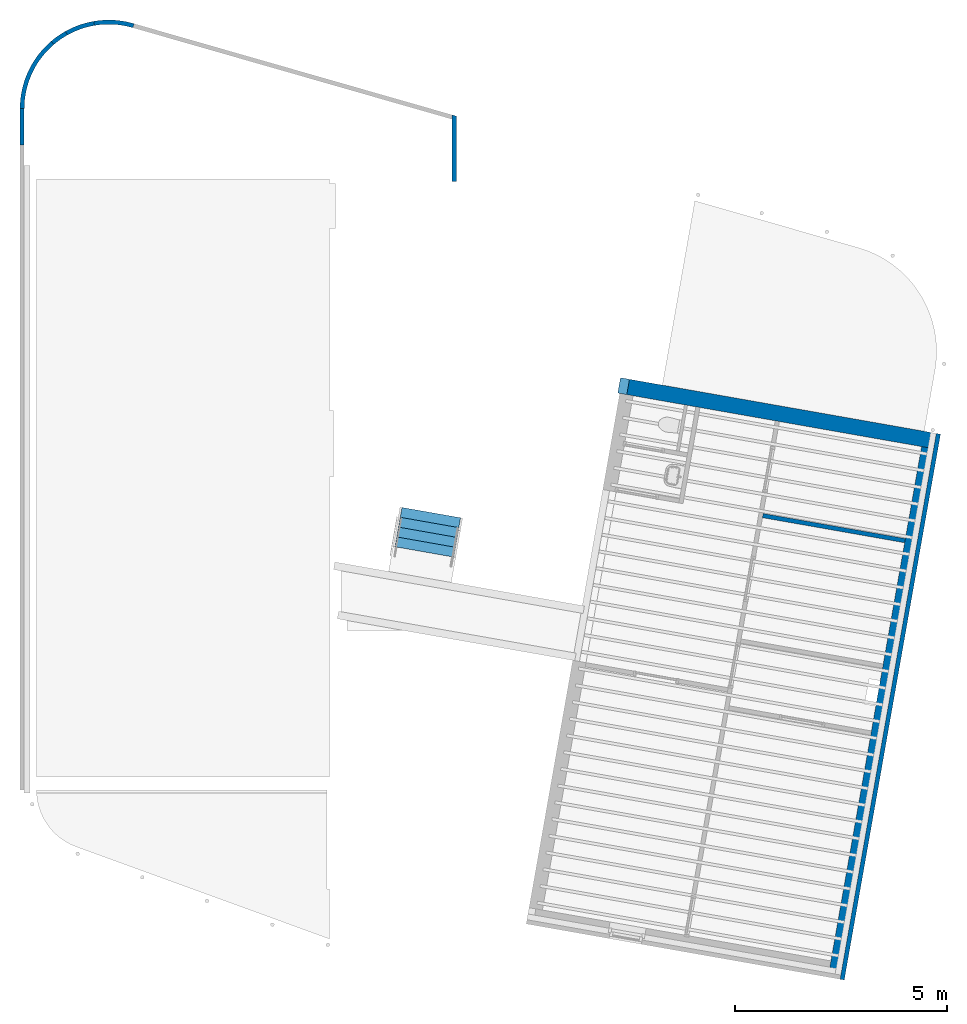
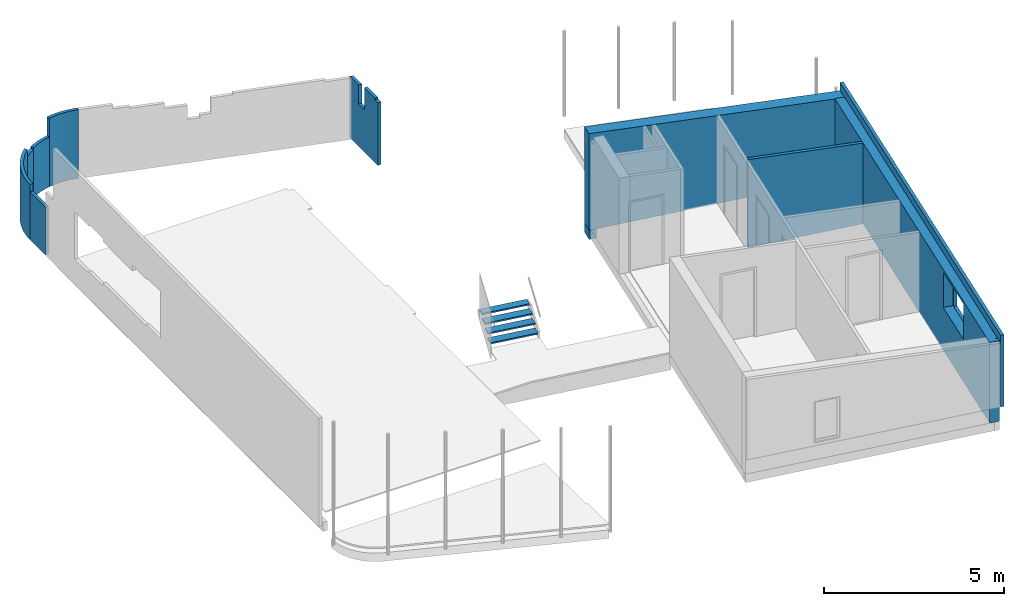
# One storey, part 4 of 7: 11 walls, 1 stair flight, 6 openings, 1 element without a shape of its own.
"""IFC2X3 building model written with IfcOpenShell, lengths in millimetres."""

from ifc_helpers import new_model, entity, si_unit, converted_unit, derived_unit, direction, frame, frame_2d, origin, origin_2d_with_axis, place, context, subcontext, project, spatial, polyline, circle_curve, parameter, trimmed, segment, composite_curve, rectangle, outline, extrude, clip, halfspace, bounded_halfspace, faceted_brep, material, layer, layer_set, layer_usage, type_object, element, aggregate, save


model = new_model("IFC2X3")

# Units and contexts
model_context = context("Model", 3, precision=0.01, world=origin(), true_north=direction((6.12303176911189e-17, 1.0)))
body_context = subcontext(model_context, "Body", "Model", "MODEL_VIEW")
ifc_project = project(units=[si_unit("LENGTHUNIT", "METRE", prefix="MILLI"), si_unit("AREAUNIT", "SQUARE_METRE"), si_unit("VOLUMEUNIT", "CUBIC_METRE"), converted_unit("PLANEANGLEUNIT", "DEGREE", entity("IfcRatioMeasure", 0.0174532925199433), si_unit("PLANEANGLEUNIT", "RADIAN"), dimensions=[0, 0, 0, 0, 0, 0, 0]), si_unit("MASSUNIT", "GRAM", prefix="KILO"), derived_unit("MASSDENSITYUNIT", [(si_unit("MASSUNIT", "GRAM", prefix="KILO"), 1), (si_unit("LENGTHUNIT", "METRE"), -3)]), si_unit("TIMEUNIT", "SECOND"), si_unit("FREQUENCYUNIT", "HERTZ"), si_unit("THERMODYNAMICTEMPERATUREUNIT", "DEGREE_CELSIUS"), derived_unit("THERMALTRANSMITTANCEUNIT", [(si_unit("MASSUNIT", "GRAM", prefix="KILO"), 1), (si_unit("THERMODYNAMICTEMPERATUREUNIT", "KELVIN"), -1), (si_unit("TIMEUNIT", "SECOND"), -3)]), derived_unit("VOLUMETRICFLOWRATEUNIT", [(si_unit("LENGTHUNIT", "METRE"), 3), (si_unit("TIMEUNIT", "SECOND"), -1)]), si_unit("ELECTRICCURRENTUNIT", "AMPERE"), si_unit("ELECTRICVOLTAGEUNIT", "VOLT"), si_unit("POWERUNIT", "WATT"), si_unit("FORCEUNIT", "NEWTON", prefix="KILO"), si_unit("ILLUMINANCEUNIT", "LUX"), si_unit("LUMINOUSFLUXUNIT", "LUMEN"), si_unit("LUMINOUSINTENSITYUNIT", "CANDELA"), derived_unit("USERDEFINED", [(si_unit("MASSUNIT", "GRAM", prefix="KILO"), -1), (si_unit("LENGTHUNIT", "METRE"), -2), (si_unit("TIMEUNIT", "SECOND"), 3), (si_unit("LUMINOUSFLUXUNIT", "LUMEN"), 1)]), derived_unit("LINEARVELOCITYUNIT", [(si_unit("LENGTHUNIT", "METRE"), 1), (si_unit("TIMEUNIT", "SECOND"), -1)]), si_unit("PRESSUREUNIT", "PASCAL"), derived_unit("USERDEFINED", [(si_unit("LENGTHUNIT", "METRE"), -2), (si_unit("MASSUNIT", "GRAM", prefix="KILO"), 1), (si_unit("TIMEUNIT", "SECOND"), -2)])], contexts=[model_context])

# Site, building, storey
site_placement = place(None, origin())
site = spatial("IfcSite", under=ifc_project, at=site_placement, Name="<Kadaster Gemeente>;<Kadaster nummer>;<Kadaster sectie>", CompositionType="ELEMENT")
building_placement = place(site_placement, origin())
building = spatial("IfcBuilding", under=site, at=building_placement, Name="JRCZ Middelburg", CompositionType="ELEMENT")
storey_placement = place(building_placement, frame((0.0, 0.0, 3000.0)))
storey = spatial("IfcBuildingStorey", under=building, at=storey_placement, Name="01 eerste verdieping", CompositionType="ELEMENT", Elevation=3000.0)

# Wall
ifc_material_1 = material(Name="RBM_a_metalstudwand")
ifc_layer_1 = layer(ifc_material_1, 100.0)
ifc_layer_set_1 = layer_set([ifc_layer_1], Name="Basic Wall:WA_22_metalstud_binnenwand_100mm")
ifc_layer_usage_1 = layer_usage(ifc_layer_set_1, "AXIS2", "NEGATIVE", 50.0)
wall_type_1 = type_object("IfcWallType", Name="Basic Wall:WA_22_metalstud_binnenwand_100mm", PredefinedType="STANDARD", material=ifc_layer_set_1)
wall_1_placement = place(storey_placement, frame((30605.5416412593, 15721.1025888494, -45.0), z_axis=(0.0, 0.0, 1.0), x_axis=(-0.984807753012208, 0.173648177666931, 0.0)))
element("IfcWallStandardCase", 1, at=wall_1_placement, inside=storey, type_object=wall_type_1, material=ifc_layer_usage_1, Name="Basic Wall:WA_22_metalstud_binnenwand_100mm", ObjectType="Basic Wall:WA_22_metalstud_binnenwand_100mm", context=body_context, shape_type="Clipping", body=[
    clip(extrude(rectangle(XDim=3400.00000000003, YDim=99.9999999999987, at=frame_2d((1700.00000000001, 3.33955085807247e-13), x_axis=(-1.0, 0.0))), origin(), (0.0, 0.0, 1.0), 2990.3512620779), bounded_halfspace(frame((0.0, -50.0, 2735.3512620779), z_axis=(0.0747899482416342, 0.0, -0.997199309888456), x_axis=(0.997199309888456, 0.0, 0.0747899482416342)), True, frame((0.0, -50.0, 2735.3512620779)), polyline([(0.0, 0.0), (3400.0, 0.0), (3400.0, 100.0), (0.0, 100.0), (0.0, 0.0)]))),
])

# Wall, openings
ifc_material_2 = material(Name="isolatie_steenwol_hsb_270")
ifc_layer_2 = layer(ifc_material_2, 270.0)
ifc_material_3 = material(Name="RBM_i4_multiplex_beplating")
ifc_layer_3 = layer(ifc_material_3, 18.0)
ifc_layer_set_2 = layer_set([ifc_layer_2, ifc_layer_3], Name="Basic Wall:RBM_21_WA_hsb_288mm")
ifc_layer_usage_2 = layer_usage(ifc_layer_set_2, "AXIS2", "NEGATIVE", 144.0)
wall_type_2 = type_object("IfcWallType", Name="Basic Wall:RBM_21_WA_hsb_288mm", PredefinedType="STANDARD", material=ifc_layer_set_2)
wall_2_placement = place(storey_placement, frame((31138.0623574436, 17911.9146955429, -45.0), z_axis=(0.0, 0.0, 1.0), x_axis=(-0.17364817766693, -0.984807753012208, 0.0)))
wall_2 = element("IfcWallStandardCase", 2, at=wall_2_placement, inside=storey, type_object=wall_type_2, material=ifc_layer_usage_2, Name="Basic Wall:RBM_21_WA_hsb_288mm", ObjectType="Basic Wall:RBM_21_WA_hsb_288mm", context=body_context, shape_type="Clipping", body=[
    clip(extrude(rectangle(XDim=12588.0, YDim=288.0, at=frame_2d((6294.0, 1.12265752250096e-12), x_axis=(-1.0, 0.0))), origin(), (0.0, 0.0, 1.0), 2735.3512620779), bounded_halfspace(frame((12450.0, -144.0, 2735.35126207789), z_axis=(0.0, -0.0747899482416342, -0.997199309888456), x_axis=(0.0, -0.997199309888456, 0.0747899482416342)), True, frame((12450.0, -144.0, 2735.35126207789)), polyline([(0.0, 0.0), (0.0, 4.68349437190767), (0.0, 288.0), (-12450.0, 288.0), (-12450.0, 0.0), (-10250.0, 0.0), (-10150.0, 0.0), (-7250.0, 0.0), (-7150.0, 0.0), (-5650.0, 0.0), (-5550.0, 0.0), (0.0, 0.0)]))),
])
opening_1_placement = place(wall_2_placement, origin())
element("IfcOpeningElement", 3, at=opening_1_placement, cuts=wall_2, Name="Basic Wall:RBM_21_WA_hsb_288mm", ObjectType="Opening", context=body_context, shape_type="SweptSolid", body=[
    extrude(rectangle(XDim=1200.0, YDim=862.999999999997, at=frame_2d((0.0, -9.09494701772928e-13), x_axis=(1.0, 0.0))), frame((9250.0, -296.400000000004, 2045.0), z_axis=(0.0, 1.0, 0.0), x_axis=(0.0, 0.0, 1.0)), (0.0, 0.0, 1.0), 592.800000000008),
])
opening_2_placement = place(wall_2_placement, origin())
element("IfcOpeningElement", 4, at=opening_2_placement, cuts=wall_2, Name="Basic Wall:RBM_21_WA_hsb_288mm", ObjectType="Opening", context=body_context, shape_type="SweptSolid", body=[
    extrude(rectangle(XDim=1200.0, YDim=774.999999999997, at=frame_2d((9.09494701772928e-13, 0.0), x_axis=(0.0, 1.0))), frame((9250.0, -296.400000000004, 2045.0), z_axis=(0.0, 1.0, 0.0), x_axis=(-1.0, 0.0, 0.0)), (0.0, 0.0, 1.0), 592.800000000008),
])
opening_3_placement = place(wall_2_placement, origin())
element("IfcOpeningElement", 5, at=opening_3_placement, cuts=wall_2, Name="Basic Wall:RBM_21_WA_hsb_288mm", ObjectType="Opening", context=body_context, shape_type="SweptSolid", body=[
    extrude(rectangle(XDim=1200.0, YDim=774.999999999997, at=frame_2d((-9.09494701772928e-13, 0.0), x_axis=(0.0, 1.0))), frame((10050.0, -296.399999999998, 2045.0), z_axis=(0.0, 1.0, 0.0), x_axis=(-1.0, 0.0, 0.0)), (0.0, 0.0, 1.0), 592.799999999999),
])
opening_4_placement = place(wall_2_placement, origin())
element("IfcOpeningElement", 6, at=opening_4_placement, cuts=wall_2, Name="Basic Wall:RBM_21_WA_hsb_288mm", ObjectType="Opening", context=body_context, shape_type="SweptSolid", body=[
    extrude(rectangle(XDim=1200.0, YDim=862.999999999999, at=origin_2d_with_axis()), frame((10050.0, -296.399999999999, 2045.0), z_axis=(0.0, 1.0, 0.0), x_axis=(0.0, 0.0, 1.0)), (0.0, 0.0, 1.0), 592.8),
])

# Wall
ifc_material_4 = material(Name="steenachtig_ntb_plaat_antraciet")
ifc_layer_4 = layer(ifc_material_4, 8.0)
ifc_material_5 = material(Name="hout_vuren_regel")
ifc_layer_5 = layer(ifc_material_5, 35.0)
ifc_layer_6 = layer(ifc_material_5, 35.0)
ifc_layer_7 = layer(ifc_material_2, 138.0)
ifc_layer_set_3 = layer_set([ifc_layer_4, ifc_layer_5, ifc_layer_6, ifc_layer_7], Name="Basic Wall:RBM_21_WA_dakrand/pas strook_rockpanel")
ifc_layer_usage_3 = layer_usage(ifc_layer_set_3, "AXIS2", "NEGATIVE", 108.0)
wall_type_3 = type_object("IfcWallType", Name="Basic Wall:RBM_21_WA_dakrand/pas strook_rockpanel", PredefinedType="STANDARD", material=ifc_layer_set_3)
wall_3_placement = place(storey_placement, frame((23946.9961449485, 19179.8936888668, -355.0), z_axis=(0.0, 0.0, 1.0), x_axis=(0.173648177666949, 0.984807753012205, 0.0)))
element("IfcWallStandardCase", 7, at=wall_3_placement, inside=storey, type_object=wall_type_3, material=ifc_layer_usage_3, Name="Basic Wall:RBM_21_WA_dakrand/pas strook_rockpanel", ObjectType="Basic Wall:RBM_21_WA_dakrand/pas strook_rockpanel", context=body_context, shape_type="Clipping", body=[
    clip(extrude(rectangle(XDim=365.999999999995, YDim=216.000000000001, at=frame_2d((182.999999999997, -4.61852778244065e-13), x_axis=(-1.0, 0.0))), origin(), (0.0, 0.0, 1.0), 310.0), bounded_halfspace(frame((0.0, -108.0, 310.0), z_axis=(0.0, 0.0, -1.0), x_axis=(1.0, 0.0, 0.0)), True, frame((0.0, -108.0, 310.0), z_axis=(0.0, 0.0, -1.0), x_axis=(1.0, 0.0, 0.0)), polyline([(0.0, 0.0), (0.0, -216.0), (366.0, -216.0), (366.0, 0.0), (150.0, 0.0), (0.0, 0.0)]))),
])

# Wall, opening
ifc_layer_8 = layer(ifc_material_4, 8.0)
ifc_material_6 = material(Name="ISR_Luchtspouw")
ifc_layer_9 = layer(ifc_material_6, 35.0)
ifc_layer_10 = layer(ifc_material_6, 35.0)
ifc_layer_11 = layer(ifc_material_2, 270.0)
ifc_layer_12 = layer(ifc_material_3, 18.0)
ifc_layer_set_4 = layer_set([ifc_layer_8, ifc_layer_9, ifc_layer_10, ifc_layer_11, ifc_layer_12], Name="Basic Wall:RBM_21_WA_hsb_ rockpanel_366mm")
ifc_layer_usage_4 = layer_usage(ifc_layer_set_4, "AXIS2", "NEGATIVE", 183.0)
wall_type_4 = type_object("IfcWallType", Name="Basic Wall:RBM_21_WA_hsb_ rockpanel_366mm", PredefinedType="STANDARD", material=ifc_layer_set_4)
wall_4_placement = place(storey_placement, frame((23872.4145241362, 19378.8675108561, -45.0), z_axis=(0.0, 0.0, 1.0), x_axis=(0.984807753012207, -0.173648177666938, 0.0)))
wall_4 = element("IfcWallStandardCase", 8, at=wall_4_placement, inside=storey, type_object=wall_type_4, material=ifc_layer_usage_4, Name="Basic Wall:RBM_21_WA_hsb_ rockpanel_366mm", ObjectType="Basic Wall:RBM_21_WA_hsb_ rockpanel_366mm", context=body_context, shape_type="Clipping", body=[
    clip(extrude(rectangle(XDim=7554.00000000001, YDim=366.0, at=frame_2d((3777.00000000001, 1.06581410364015e-12), x_axis=(-1.0, 0.0))), origin(), (0.0, 0.0, 1.0), 3281.16232696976), halfspace(frame((7554.0, 183.0, 2695.96881615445), z_axis=(0.0772366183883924, 0.0, 0.997012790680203), x_axis=(0.0, 1.0, 0.0)), False)),
])
opening_5_placement = place(storey_placement, frame((23872.4145241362, 19378.8675108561, -45.0), z_axis=(0.0, 0.0, 1.0), x_axis=(0.984807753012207, -0.173648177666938, 0.0)))
element("IfcOpeningElement", 9, at=opening_5_placement, cuts=wall_4, Name="Basic Wall:RBM_21_WA_hsb_ rockpanel_366mm:1", ObjectType="Opening", context=body_context, shape_type="SweptSolid", body=[
    extrude(rectangle(XDim=9.99999999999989, YDim=215.999999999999, at=frame_2d((3.19744231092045e-12, 0.0), x_axis=(0.0, 1.0))), frame((216.0, 75.0, 5.0), z_axis=(1.0, 0.0, 0.0), x_axis=(0.0, -1.0, 0.0)), (0.0, 0.0, 1.0), 784.140981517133),
])

# Walls
ifc_material_7 = material(Name="hout_accoya_schubben")
ifc_layer_13 = layer(ifc_material_7, 30.0)
ifc_layer_14 = layer(ifc_material_5, 35.0)
ifc_layer_15 = layer(ifc_material_5, 35.0)
ifc_layer_set_5 = layer_set([ifc_layer_13, ifc_layer_14, ifc_layer_15], Name="Basic Wall:RBM_21_WA_gevelbekleding op regelwerk_100mm")
wall_type_5 = type_object("IfcWallType", Name="Basic Wall:RBM_21_WA_gevelbekleding op regelwerk_100mm", PredefinedType="STANDARD", material=ifc_layer_set_5)
wall_5_placement = place(storey_placement, frame((19987.632860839, 25750.1670000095, 500.0), z_axis=(0.0, 0.0, 1.0), x_axis=(0.0, -1.0, 0.0)))
element("IfcWall", 10, at=wall_5_placement, inside=storey, type_object=wall_type_5, Name="Basic Wall:RBM_21_WA_gevelbekleding op regelwerk_100mm", ObjectType="Basic Wall:RBM_21_WA_gevelbekleding op regelwerk_100mm", context=body_context, shape_type="Brep", body=[
    faceted_brep([(0.0, -50.0, 0.0), (104.029985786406, -50.0, 0.0), (1566.16700000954, -50.0, 0.0), (1566.16700000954, -50.0, 1550.0), (1566.16700000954, -50.0, 2123.3717029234), (1396.16700000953, -50.0, 2123.3717029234), (1396.16700000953, -50.0, 2183.3717029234), (811.352338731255, -50.0, 2183.3717029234), (811.352338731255, -50.0, 1443.3717029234), (501.352338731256, -50.0, 1443.3717029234), (501.352338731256, -50.0, 2082.98183221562), (104.029985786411, -50.0, 2082.98183221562), (0.0, -50.0, 2082.98183221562), (28.6746916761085, 50.0, 0.0), (28.6746916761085, 50.0, 2082.98183221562), (501.352338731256, 50.0, 2082.98183221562), (501.352338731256, 50.0, 1443.3717029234), (811.352338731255, 50.0, 1443.3717029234), (811.352338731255, 50.0, 2183.3717029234), (1396.16700000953, 50.0, 2183.3717029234), (1396.16700000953, 50.0, 2123.3717029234), (1566.16700000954, 50.0, 2123.3717029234), (1566.16700000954, 50.0, 0.0), (132.704677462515, 50.0, 0.0)], [[[0, 1, 2, 3, 4, 5, 6, 7, 8, 9, 10, 11, 12]], [[13, 14, 15, 16, 17, 18, 19, 20, 21, 22, 23]], [[0, 12, 14, 13]], [[2, 1, 0, 13, 23, 22]], [[4, 3, 2, 22, 21]], [[7, 6, 19, 18]], [[8, 7, 18, 17]], [[9, 8, 17, 16]], [[10, 9, 16, 15]], [[12, 11, 10, 15, 14]], [[5, 4, 21, 20]], [[6, 5, 20, 19]]]),
])
ifc_layer_usage_5 = layer_usage(ifc_layer_set_5, "AXIS2", "POSITIVE", -50.0)
wall_6_placement = place(storey_placement, frame((9811.99988978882, 25897.4358233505, 500.0)))
element("IfcWallStandardCase", 11, at=wall_6_placement, inside=storey, type_object=wall_type_5, material=ifc_layer_usage_5, Name="Basic Wall:RBM_21_WA_gevelbekleding op regelwerk_100mm", ObjectType="Basic Wall:RBM_21_WA_gevelbekleding op regelwerk_100mm", context=body_context, shape_type="SweptSolid", body=[
    extrude(outline(composite_curve([segment(trimmed(circle_curve(frame_2d((2041.07824207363, -4.28551970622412), x_axis=(1.0, 0.0)), 2091.08274108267), [parameter(130.51836856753)], [parameter(179.879699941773)], True, "PARAMETER"), True, "CONTINUOUS"), segment(polyline([(-49.9998897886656, 0.10498152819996), (50.0001102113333, -0.00128616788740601)]), True, "CONTINUOUS"), segment(trimmed(circle_curve(frame_2d((2041.07824207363, -4.28551970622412), x_axis=(1.0, 0.0)), 1991.08274108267), [parameter(130.51836856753)], [parameter(179.876715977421)], True, "PARAMETER"), False, "CONTINUOUS"), segment(polyline([(747.488122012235, 1509.33103778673), (682.518942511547, 1585.35080965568)]), True, "CONTINUOUS")], self_intersect=False)), origin(), (0.0, 0.0, 1.0), 1880.78854440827),
])

# Wall, opening
ifc_layer_usage_6 = layer_usage(ifc_layer_set_5, "AXIS2", "NEGATIVE", 50.0)
wall_7_placement = place(storey_placement, frame((31392.6702945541, 18238.666586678, 500.0), z_axis=(0.0, 0.0, 1.0), x_axis=(-0.173648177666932, -0.984807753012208, 0.0)))
wall_7 = element("IfcWallStandardCase", 12, at=wall_7_placement, inside=storey, type_object=wall_type_5, material=ifc_layer_usage_6, Name="Basic Wall:RBM_21_WA_gevelbekleding op regelwerk_100mm", ObjectType="Basic Wall:RBM_21_WA_gevelbekleding op regelwerk_100mm", context=body_context, shape_type="SweptSolid", body=[
    extrude(rectangle(XDim=13054.0, YDim=99.9999999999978, at=frame_2d((6527.0, -8.31335000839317e-13), x_axis=(-1.0, 0.0))), origin(), (0.0, 0.0, 1.0), 2429.37511890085),
])
opening_6_placement = place(wall_7_placement, origin())
element("IfcOpeningElement", 13, at=opening_6_placement, cuts=wall_7, Name="Basic Wall:RBM_21_WA_gevelbekleding op regelwerk_100mm", ObjectType="Opening", context=body_context, shape_type="SweptSolid", body=[
    extrude(rectangle(XDim=1200.0, YDim=1575.00000000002, at=frame_2d((0.0, 5.11590769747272e-13), x_axis=(1.0, 0.0))), frame((10016.0, 50.0, 1500.0), z_axis=(0.0, 1.0, 0.0), x_axis=(0.0, 0.0, -1.0)), (0.0, 0.0, -1.0), 100.0),
])

# Walls
ifc_layer_usage_7 = layer_usage(ifc_layer_set_5, "AXIS2", "POSITIVE", -50.0)
wall_8_placement = place(storey_placement, frame((11505.288019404, 27904.3839533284, 500.0)))
element("IfcWallStandardCase", 14, at=wall_8_placement, inside=storey, type_object=wall_type_5, material=ifc_layer_usage_7, Name="Basic Wall:RBM_21_WA_gevelbekleding op regelwerk_100mm", ObjectType="Basic Wall:RBM_21_WA_gevelbekleding op regelwerk_100mm", context=body_context, shape_type="SweptSolid", body=[
    extrude(outline(composite_curve([segment(trimmed(circle_curve(frame_2d((347.790112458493, -2011.2336496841), x_axis=(1.0, 0.0)), 2091.08274108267), [parameter(73.4101574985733)], [parameter(99.8107808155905)], True, "PARAMETER"), True, "CONTINUOUS"), segment(polyline([(-8.5197455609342, 49.26879271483), (8.5197455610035, -49.268792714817)]), True, "CONTINUOUS"), segment(trimmed(circle_curve(frame_2d((347.790112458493, -2011.2336496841), x_axis=(1.0, 0.0)), 1991.08274108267), [parameter(73.3955287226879)], [parameter(99.8107808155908)], True, "PARAMETER"), False, "CONTINUOUS"), segment(polyline([(916.768193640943, -103.178507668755), (944.832856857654, -7.19597752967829)]), True, "CONTINUOUS")], self_intersect=False)), origin(), (0.0, 0.0, 1.0), 2330.0),
])
ifc_layer_usage_8 = layer_usage(ifc_layer_set_5, "AXIS2", "POSITIVE", -50.0)
wall_9_placement = place(storey_placement, frame((10527.0034220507, 27444.7767470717, 500.0)))
element("IfcWallStandardCase", 15, at=wall_9_placement, inside=storey, type_object=wall_type_5, material=ifc_layer_usage_8, Name="Basic Wall:RBM_21_WA_gevelbekleding op regelwerk_100mm", ObjectType="Basic Wall:RBM_21_WA_gevelbekleding op regelwerk_100mm", context=body_context, shape_type="SweptSolid", body=[
    extrude(outline(composite_curve([segment(trimmed(circle_curve(frame_2d((1326.07470981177, -1551.62644342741), x_axis=(1.0, 0.0)), 2091.08274108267), [parameter(119.241904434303)], [parameter(130.51836856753)], True, "PARAMETER"), True, "CONTINUOUS"), segment(polyline([(-32.4845897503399, 38.0098859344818), (32.4845897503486, -38.0098859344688)]), True, "CONTINUOUS"), segment(trimmed(circle_curve(frame_2d((1326.07470981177, -1551.62644342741), x_axis=(1.0, 0.0)), 1991.08274108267), [parameter(119.241904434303)], [parameter(130.51836856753)], True, "PARAMETER"), False, "CONTINUOUS"), segment(polyline([(353.434856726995, 185.722743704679), (304.585060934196, 272.979247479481)]), True, "CONTINUOUS")], self_intersect=False)), origin(), (0.0, 0.0, 1.0), 1630.0),
])
ifc_layer_usage_9 = layer_usage(ifc_layer_set_5, "AXIS2", "POSITIVE", -50.0)
wall_10_placement = place(storey_placement, frame((10856.0133808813, 27674.1277426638, 500.0)))
element("IfcWallStandardCase", 16, at=wall_10_placement, inside=storey, type_object=wall_type_5, material=ifc_layer_usage_9, Name="Basic Wall:RBM_21_WA_gevelbekleding op regelwerk_100mm", ObjectType="Basic Wall:RBM_21_WA_gevelbekleding op regelwerk_100mm", context=body_context, shape_type="SweptSolid", body=[
    extrude(outline(composite_curve([segment(trimmed(circle_curve(frame_2d((997.064750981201, -1780.97743901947), x_axis=(1.0, 0.0)), 2091.08274108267), [parameter(99.8107808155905)], [parameter(119.241904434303)], True, "PARAMETER"), True, "CONTINUOUS"), segment(polyline([(-24.4248978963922, 43.6282518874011), (24.4248978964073, -43.6282518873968)]), True, "CONTINUOUS"), segment(trimmed(circle_curve(frame_2d((997.064750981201, -1780.97743901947), x_axis=(1.0, 0.0)), 1991.08274108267), [parameter(99.8107808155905)], [parameter(119.241904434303)], True, "PARAMETER"), False, "CONTINUOUS"), segment(polyline([(657.794384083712, 180.98741794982), (640.754892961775, 279.525003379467)]), True, "CONTINUOUS")], self_intersect=False)), origin(), (0.0, 0.0, 1.0), 1687.88213174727),
])
ifc_layer_usage_10 = layer_usage(ifc_layer_set_5, "AXIS2", "NEGATIVE", 50.0)
wall_11_placement = place(storey_placement, frame((9812.0, 25037.48799647, 500.0), z_axis=(0.0, 0.0, 1.0), x_axis=(0.0, 1.0, 0.0)))
element("IfcWallStandardCase", 17, at=wall_11_placement, inside=storey, type_object=wall_type_5, material=ifc_layer_usage_10, Name="Basic Wall:RBM_21_WA_gevelbekleding op regelwerk_100mm", ObjectType="Basic Wall:RBM_21_WA_gevelbekleding op regelwerk_100mm", context=body_context, shape_type="SweptSolid", body=[
    extrude(outline(polyline([(-49.5430775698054, -429.999594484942), (50.4569788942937, -429.999594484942), (49.5430211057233, 430.052728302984), (-50.4569224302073, 429.946460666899), (-49.5430775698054, -429.999594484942)])), frame((429.999837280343, 0.0, 0.0), z_axis=(0.0, 0.0, 1.0), x_axis=(0.00106267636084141, 0.999999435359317, 0.0)), (0.0, 0.0, 1.0), 1630.0),
])

# Stair, stair flight
stair_placement = place(storey_placement, origin())
stair = element("IfcStair", 18, at=stair_placement, inside=storey, Name="Assembled Stair:Stair", ObjectType="Assembled Stair:RBM_ST_houten trap", ShapeType="NOTDEFINED")
ifc_material_8 = material(Name="traphout")
stair_flight_placement = place(stair_placement, origin())
stair_flight = element("IfcStairFlight", 19, at=stair_flight_placement, material=ifc_material_8, Name="Assembled Stair:Stair:1659339 Run 1", ObjectType="Non-Monolithic Run:RBM_ST_samengestelde houten trede", NumberOfRiser=4, NumberOfTreads=4, RiserHeight=0.574146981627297, TreadLength=0.770997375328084, context=body_context, shape_type="SweptSolid", body=[
    extrude(rectangle(XDim=259.999999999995, YDim=1400.0, at=frame_2d((4.2774672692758e-12, 7.38964445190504e-13), x_axis=(1.0, 0.0))), frame((19308.0709704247, 15584.0421118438, 125.0), z_axis=(0.0, 0.0, 1.0), x_axis=(-0.17348034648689, -0.984837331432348, 0.0)), (0.0, 0.0, 1.0), 50.0),
    extrude(rectangle(XDim=260.000000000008, YDim=1400.0, at=frame_2d((-4.64694949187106e-12, 1.4210854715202e-12), x_axis=(1.0, 0.0))), frame((19348.8388518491, 15815.4788847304, 300.0), z_axis=(0.0, 0.0, 1.0), x_axis=(-0.173480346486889, -0.984837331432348, 0.0)), (0.0, 0.0, 1.0), 50.0),
    extrude(rectangle(XDim=260.000000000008, YDim=1400.0, at=frame_2d((-1.94688709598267e-12, -1.4210854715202e-12), x_axis=(1.0, 0.0))), frame((19389.6067332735, 16046.915657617, 475.0), z_axis=(0.0, 0.0, 1.0), x_axis=(-0.173480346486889, -0.984837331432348, 0.0)), (0.0, 0.0, 1.0), 50.0),
    extrude(rectangle(XDim=234.999999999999, YDim=1400.0, at=origin_2d_with_axis()), frame((19428.2061103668, 16266.0419638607, 650.0), z_axis=(0.0, 0.0, 1.0), x_axis=(-0.173480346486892, -0.984837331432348, 0.0)), (0.0, 0.0, 1.0), 50.0),
])
aggregate(stair, [stair_flight])

save(model, "model.ifc")
